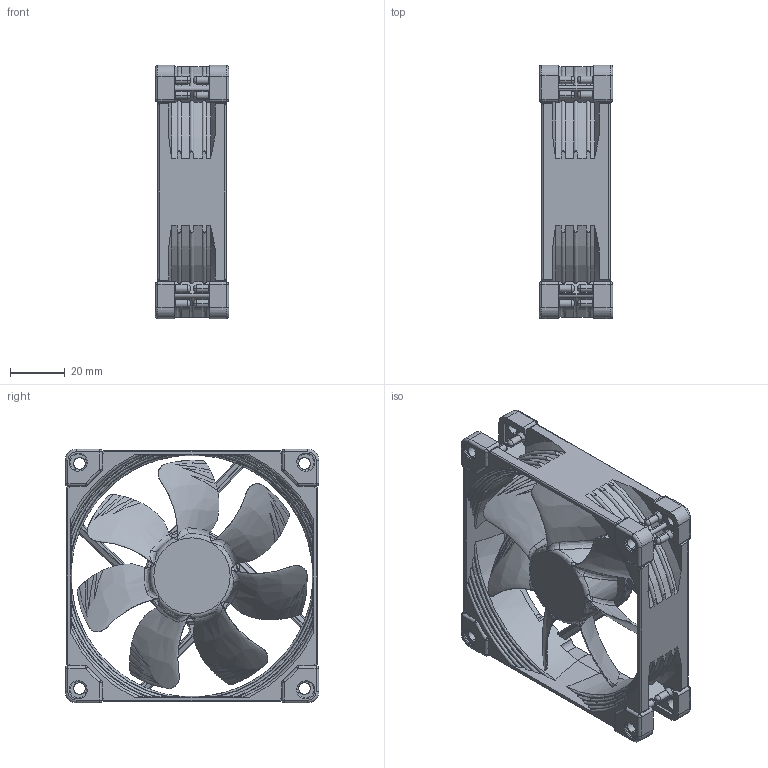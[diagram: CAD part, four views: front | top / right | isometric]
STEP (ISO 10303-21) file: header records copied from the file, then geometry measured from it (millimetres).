
FILE_DESCRIPTION(/* description */ ('140mm Desk Fan'),/* implementation_level */ '2;1');
FILE_NAME(/* name */ 'NF-A9_public-cad',/* time_stamp */ '2026-04-09T17:52:40+02:00',/* author */ ('Andreas'),/* organization */ ('Rascom'),/* preprocessor_version */ 'ST-DEVELOPER v18.102',/* originating_system */ 'Solid Edge',/* authorisation */ 'Unknown');
FILE_SCHEMA (('AUTOMOTIVE_DESIGN {1 0 10303 214 3 1 1}'));
Length unit declared in the file: millimetre
Products named in the file (5): NF-A9_public-cad; A9_Frame-public; A9_Impeller-public; NA-AVP5; Fan-Label-D29mm-Regular
Assembly tree (11 placements, depth 2):
  NF-A9_public-cad
    A9_Frame-public
    A9_Impeller-public
    NA-AVP5  x8
    Fan-Label-D29mm-Regular
Bounding box: 27 x 93 x 93 mm (x, y, z)
Volume: 52877.1 mm3; surface area: 49244.7 mm2
Topology: 11 solids, 11 shells, 1639 faces, 4314 edges, 2694 vertices
Faces by surface type: cylinder 698, plane 483, torus 226, bspline 129, cone 65, sphere 38
Full cylindrical faces by diameter (mm): 25.4 x1, 29 x2
Entity records: 46390 total; most frequent: CARTESIAN_POINT 18355, ORIENTED_EDGE 6252, DIRECTION 4677, EDGE_CURVE 3126, VERTEX_POINT 2008, AXIS2_PLACEMENT_3D 1740, EDGE_LOOP 1248, FACE_BOUND 1248
